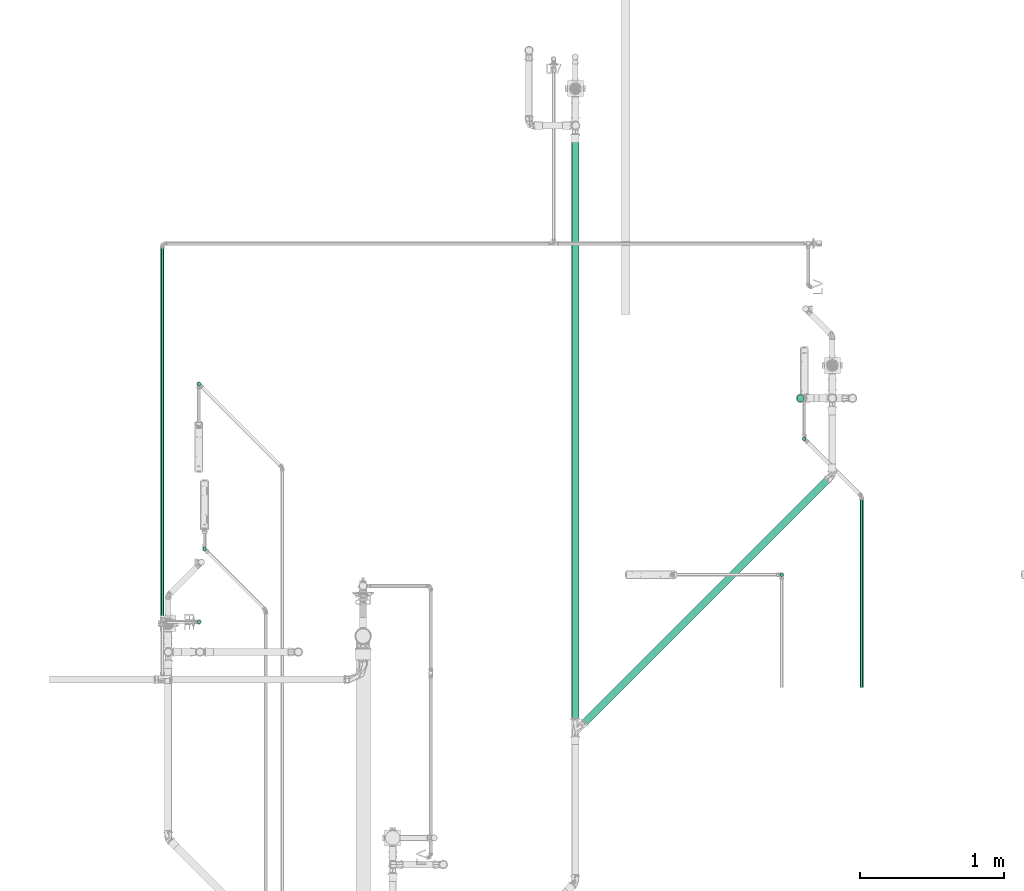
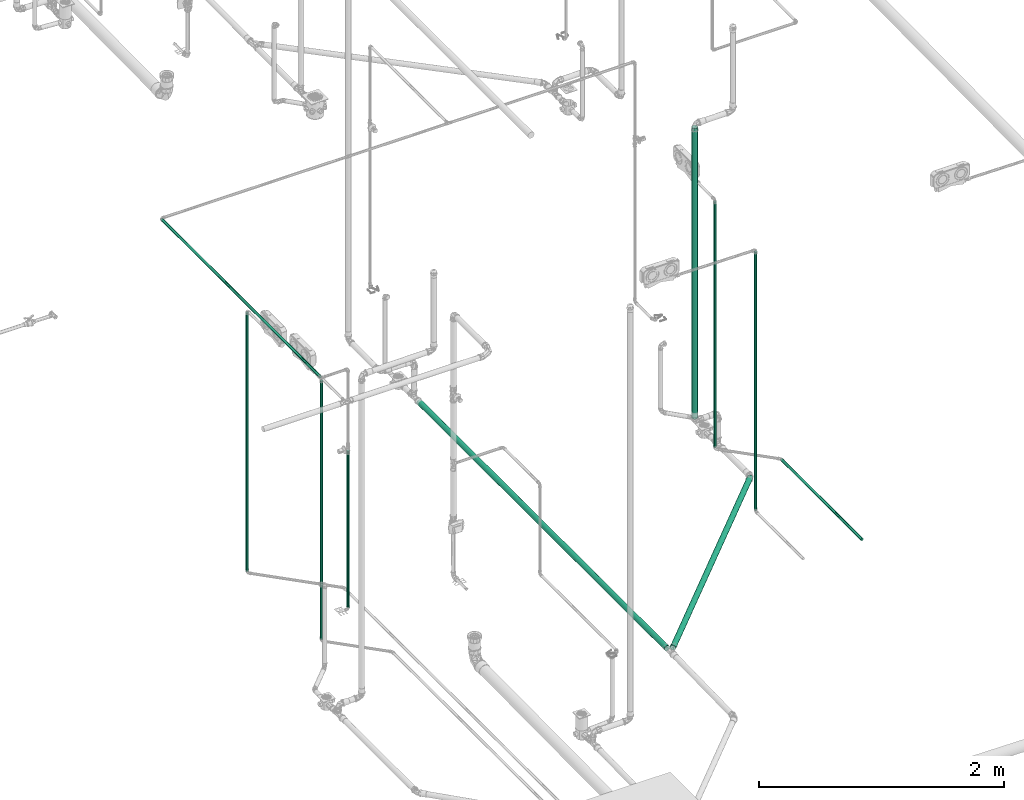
# One storey, part 14 of 589: 10 flow segments.
"""IFC2X3 building model written with IfcOpenShell, lengths in millimetres."""

from ifc_helpers import new_model, entity, si_unit, converted_unit, derived_unit, direction, frame, frame_2d, origin, origin_2d_with_axis, place, context, subcontext, project, spatial, circle, extrude, type_object, element, save


model = new_model("IFC2X3")

# Units and contexts
model_context = context("Model", 3, precision=0.01, world=origin(), true_north=direction((6.123031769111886e-17, 1.0)))
body_context = subcontext(model_context, "Body", "Model", "MODEL_VIEW")
ifc_project = project(units=[si_unit("LENGTHUNIT", "METRE", prefix="MILLI"), si_unit("AREAUNIT", "SQUARE_METRE"), si_unit("VOLUMEUNIT", "CUBIC_METRE"), converted_unit("PLANEANGLEUNIT", "DEGREE", entity("IfcRatioMeasure", 0.017453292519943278), si_unit("PLANEANGLEUNIT", "RADIAN"), dimensions=[0, 0, 0, 0, 0, 0, 0]), si_unit("MASSUNIT", "GRAM", prefix="KILO"), derived_unit("MASSDENSITYUNIT", [(si_unit("MASSUNIT", "GRAM", prefix="KILO"), 1), (si_unit("LENGTHUNIT", "METRE"), -3)]), derived_unit("IONCONCENTRATIONUNIT", [(si_unit("MASSUNIT", "GRAM", prefix="KILO"), 1), (si_unit("LENGTHUNIT", "METRE"), -3)]), derived_unit("MOMENTOFINERTIAUNIT", [(si_unit("LENGTHUNIT", "METRE"), 4)]), si_unit("TIMEUNIT", "SECOND"), si_unit("FREQUENCYUNIT", "HERTZ"), si_unit("THERMODYNAMICTEMPERATUREUNIT", "DEGREE_CELSIUS"), derived_unit("THERMALTRANSMITTANCEUNIT", [(si_unit("MASSUNIT", "GRAM", prefix="KILO"), 1), (si_unit("THERMODYNAMICTEMPERATUREUNIT", "KELVIN"), -1), (si_unit("TIMEUNIT", "SECOND"), -3)]), derived_unit("THERMALCONDUCTANCEUNIT", [(si_unit("MASSUNIT", "GRAM", prefix="KILO"), 1), (si_unit("THERMODYNAMICTEMPERATUREUNIT", "KELVIN"), -1), (si_unit("TIMEUNIT", "SECOND"), -3), (si_unit("LENGTHUNIT", "METRE"), 1)]), derived_unit("VOLUMETRICFLOWRATEUNIT", [(si_unit("LENGTHUNIT", "METRE"), 3), (si_unit("TIMEUNIT", "SECOND"), -1)]), derived_unit("MASSFLOWRATEUNIT", [(si_unit("MASSUNIT", "GRAM", prefix="KILO"), 1), (si_unit("TIMEUNIT", "SECOND"), -1)]), derived_unit("ROTATIONALFREQUENCYUNIT", [(si_unit("TIMEUNIT", "SECOND"), -1)]), si_unit("ELECTRICCURRENTUNIT", "AMPERE"), si_unit("ELECTRICVOLTAGEUNIT", "VOLT"), si_unit("POWERUNIT", "WATT"), si_unit("FORCEUNIT", "NEWTON", prefix="KILO"), si_unit("ILLUMINANCEUNIT", "LUX"), si_unit("LUMINOUSFLUXUNIT", "LUMEN"), si_unit("LUMINOUSINTENSITYUNIT", "CANDELA"), derived_unit("USERDEFINED", [(si_unit("MASSUNIT", "GRAM", prefix="KILO"), -1), (si_unit("LENGTHUNIT", "METRE"), -2), (si_unit("TIMEUNIT", "SECOND"), 3), (si_unit("LUMINOUSFLUXUNIT", "LUMEN"), 1)]), derived_unit("USERDEFINED", [(si_unit("MASSUNIT", "GRAM", prefix="KILO"), 1), (si_unit("TIMEUNIT", "SECOND"), -3), (si_unit("LENGTHUNIT", "METRE"), 3), (si_unit("ELECTRICCURRENTUNIT", "AMPERE"), -2)]), derived_unit("SOUNDPOWERUNIT", [(si_unit("MASSUNIT", "GRAM", prefix="KILO"), 1), (si_unit("TIMEUNIT", "SECOND"), -3), (si_unit("LENGTHUNIT", "METRE"), 2)]), derived_unit("SOUNDPRESSUREUNIT", [(si_unit("MASSUNIT", "GRAM", prefix="KILO"), 1), (si_unit("LENGTHUNIT", "METRE"), -1), (si_unit("TIMEUNIT", "SECOND"), -2)]), derived_unit("LINEARVELOCITYUNIT", [(si_unit("LENGTHUNIT", "METRE"), 1), (si_unit("TIMEUNIT", "SECOND"), -1)]), si_unit("PRESSUREUNIT", "PASCAL"), derived_unit("USERDEFINED", [(si_unit("MASSUNIT", "GRAM", prefix="KILO"), 1), (si_unit("LENGTHUNIT", "METRE"), -2), (si_unit("TIMEUNIT", "SECOND"), -2)]), derived_unit("LINEARFORCEUNIT", [(si_unit("MASSUNIT", "GRAM", prefix="KILO"), 1), (si_unit("TIMEUNIT", "SECOND"), -2)]), derived_unit("PLANARFORCEUNIT", [(si_unit("MASSUNIT", "GRAM", prefix="KILO"), 1), (si_unit("LENGTHUNIT", "METRE"), -1), (si_unit("TIMEUNIT", "SECOND"), -2)]), derived_unit("SPECIFICHEATCAPACITYUNIT", [(si_unit("THERMODYNAMICTEMPERATUREUNIT", "KELVIN"), -1), (si_unit("LENGTHUNIT", "METRE"), 2), (si_unit("TIMEUNIT", "SECOND"), -2)]), derived_unit("HEATINGVALUEUNIT", [(si_unit("LENGTHUNIT", "METRE"), 2), (si_unit("TIMEUNIT", "SECOND"), -2)]), derived_unit("VAPORPERMEABILITYUNIT", [(si_unit("LENGTHUNIT", "METRE"), -1), (si_unit("TIMEUNIT", "SECOND"), 1)]), derived_unit("DYNAMICVISCOSITYUNIT", [(si_unit("MASSUNIT", "GRAM", prefix="KILO"), 1), (si_unit("TIMEUNIT", "SECOND"), -1), (si_unit("LENGTHUNIT", "METRE"), -1)]), derived_unit("THERMALEXPANSIONCOEFFICIENTUNIT", [(si_unit("THERMODYNAMICTEMPERATUREUNIT", "KELVIN"), -1)]), derived_unit("MODULUSOFELASTICITYUNIT", [(si_unit("MASSUNIT", "GRAM", prefix="KILO"), 1), (si_unit("LENGTHUNIT", "METRE"), -1), (si_unit("TIMEUNIT", "SECOND"), -2)]), derived_unit("ISOTHERMALMOISTURECAPACITYUNIT", [(si_unit("LENGTHUNIT", "METRE"), 3), (si_unit("MASSUNIT", "GRAM", prefix="KILO"), -1)]), derived_unit("MOISTUREDIFFUSIVITYUNIT", [(si_unit("TIMEUNIT", "SECOND"), -1), (si_unit("LENGTHUNIT", "METRE"), 2)])], contexts=[model_context])

# Site, building, storey
site_placement = place(None, origin())
site = spatial("IfcSite", under=ifc_project, at=site_placement, Name="Default", CompositionType="ELEMENT")
building_placement = place(site_placement, origin())
building = spatial("IfcBuilding", under=site, at=building_placement, CompositionType="ELEMENT")
storey_placement = place(building_placement, frame((0.0, 0.0, 100.0)))
storey = spatial("IfcBuildingStorey", under=building, at=storey_placement, Name="TÉRREO", CompositionType="ELEMENT", Elevation=100.0)

# Flow segments
pipe_segment_type_1 = type_object("IfcPipeSegmentType", Name="Tipos de tubos:PVC Esgoto Série Normal", PredefinedType="NOTDEFINED")
flow_segment_1_placement = place(storey_placement, origin())
element("IfcFlowSegment", 1, at=flow_segment_1_placement, inside=storey, type_object=pipe_segment_type_1, Name="Tipos de tubos:PVC Esgoto Série Normal", ObjectType="Tipos de tubos:PVC Esgoto Série Normal", context=body_context, shape_type="SweptSolid", body=[
    extrude(circle(Radius=25.0, at=frame_2d((7.657026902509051e-13, -4.92440131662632e-14), x_axis=(1.0, 0.0))), frame((10310.852331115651, -8932.422922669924, -277.0783862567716), z_axis=(0.7069635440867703, 0.7069635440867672, 0.020126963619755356), x_axis=(0.707106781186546, -0.7071067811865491, 0.0)), (0.0, 0.0, 1.0), 2436.948506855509),
])
flow_segment_2_placement = place(storey_placement, origin())
element("IfcFlowSegment", 2, at=flow_segment_2_placement, inside=storey, type_object=pipe_segment_type_1, Name="Tipos de tubos:PVC Esgoto Série Normal", ObjectType="Tipos de tubos:PVC Esgoto Série Normal", context=body_context, shape_type="SweptSolid", body=[
    extrude(circle(Radius=25.0, at=frame_2d((0.0, -3.383959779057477e-14), x_axis=(1.0, 0.0))), frame((10266.454903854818, -8914.02034993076, -278.334135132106), z_axis=(0.0, 1.0, 0.0), x_axis=(-1.0, 0.0, 0.0)), (0.0, 0.0, 1.0), 4048.18130739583),
])
flow_segment_3_placement = place(storey_placement, origin())
element("IfcFlowSegment", 3, at=flow_segment_3_placement, inside=storey, type_object=pipe_segment_type_1, Name="Tipos de tubos:PVC Esgoto Série Normal", ObjectType="Tipos de tubos:PVC Esgoto Série Normal", context=body_context, shape_type="SweptSolid", body=[
    extrude(circle(Radius=25.0, at=frame_2d((0.0, -1.0828671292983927e-12), x_axis=(1.0, 0.0))), frame((11824.978158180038, -6666.695187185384, 113.141299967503), z_axis=(0.0, 0.0, 1.0), x_axis=(-1.0, 0.0, 0.0)), (0.0, 0.0, 1.0), 2898.1174000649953),
])
pipe_segment_type_2 = type_object("IfcPipeSegmentType", Name="Tipos de tubos:PVC Marrom Soldável", PredefinedType="NOTDEFINED")
flow_segment_4_placement = place(storey_placement, origin())
element("IfcFlowSegment", 4, at=flow_segment_4_placement, inside=storey, type_object=pipe_segment_type_2, Name="Tipos de tubos:PVC Marrom Soldável", ObjectType="Tipos de tubos:PVC Marrom Soldável", context=body_context, shape_type="SweptSolid", body=[
    extrude(circle(Radius=12.5, at=origin_2d_with_axis()), frame((7661.65760304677, -8214.483617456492, 616.3000000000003), z_axis=(0.0, 0.0, 1.0), x_axis=(-1.0, 0.0, 0.0)), (0.0, 0.0, 1.0), 1563.6999999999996),
])
flow_segment_5_placement = place(storey_placement, origin())
element("IfcFlowSegment", 5, at=flow_segment_5_placement, inside=storey, type_object=pipe_segment_type_2, Name="Tipos de tubos:PVC Marrom Soldável", ObjectType="Tipos de tubos:PVC Marrom Soldável", context=body_context, shape_type="SweptSolid", body=[
    extrude(circle(Radius=12.5, at=frame_2d((0.0, 1.0828671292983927e-12), x_axis=(1.0, 0.0))), frame((11694.912449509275, -7887.8612457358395, -21.955479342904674)), (0.0, 0.0, 1.0), 2577.3133963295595),
])
flow_segment_6_placement = place(storey_placement, origin())
element("IfcFlowSegment", 6, at=flow_segment_6_placement, inside=storey, type_object=pipe_segment_type_2, Name="Tipos de tubos:PVC Marrom Soldável", ObjectType="Tipos de tubos:PVC Marrom Soldável", context=body_context, shape_type="SweptSolid", body=[
    extrude(circle(Radius=12.5, at=frame_2d((0.0, -1.859011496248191e-19), x_axis=(1.0, 0.0))), frame((7700.884395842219, -7709.770781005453, -20.756995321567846)), (0.0, 0.0, 1.0), 2580.685513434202),
])
flow_segment_7_placement = place(storey_placement, origin())
element("IfcFlowSegment", 7, at=flow_segment_7_placement, inside=storey, type_object=pipe_segment_type_2, Name="Tipos de tubos:PVC Marrom Soldável", ObjectType="Tipos de tubos:PVC Marrom Soldável", context=body_context, shape_type="SweptSolid", body=[
    extrude(circle(Radius=12.5, at=frame_2d((0.0, -1.0828673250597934e-12), x_axis=(1.0, 0.0))), frame((11852.04804908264, -6948.179850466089, -20.75699532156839)), (0.0, 0.0, 1.0), 2450.6855134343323),
])
flow_segment_8_placement = place(storey_placement, origin())
element("IfcFlowSegment", 8, at=flow_segment_8_placement, inside=storey, type_object=pipe_segment_type_2, Name="Tipos de tubos:PVC Marrom Soldável", ObjectType="Tipos de tubos:PVC Marrom Soldável", context=body_context, shape_type="SweptSolid", body=[
    extrude(circle(Radius=12.5, at=frame_2d((-2.1657342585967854e-12, -8.459899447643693e-15), x_axis=(1.0, 0.0))), frame((12248.027846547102, -8667.861202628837, -37.35698040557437), z_axis=(0.0, 1.0, 0.0), x_axis=(-1.0, 0.0, 0.0)), (0.0, 0.0, 1.0), 1316.6368566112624),
])
flow_segment_9_placement = place(storey_placement, origin())
element("IfcFlowSegment", 9, at=flow_segment_9_placement, inside=storey, type_object=pipe_segment_type_2, Name="Tipos de tubos:PVC Marrom Soldável", ObjectType="Tipos de tubos:PVC Marrom Soldável", context=body_context, shape_type="SweptSolid", body=[
    extrude(circle(Radius=12.5, at=frame_2d((1.0828671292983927e-12, -1.859011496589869e-19), x_axis=(1.0, 0.0))), frame((7660.884395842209, -6567.840343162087, -20.75703900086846)), (0.0, 0.0, 1.0), 2580.6855571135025),
])
flow_segment_10_placement = place(storey_placement, origin())
element("IfcFlowSegment", 10, at=flow_segment_10_placement, inside=storey, type_object=pipe_segment_type_2, Name="Tipos de tubos:PVC Marrom Soldável", ObjectType="Tipos de tubos:PVC Marrom Soldável", context=body_context, shape_type="SweptSolid", body=[
    extrude(circle(Radius=12.5, at=origin_2d_with_axis()), frame((7408.942685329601, -8198.583617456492, 2995.0), z_axis=(0.0, 1.0, 0.0), x_axis=(1.0, 0.0, 0.0)), (0.0, 0.0, 1.0), 2587.787648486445),
])

save(model, "model.ifc")
